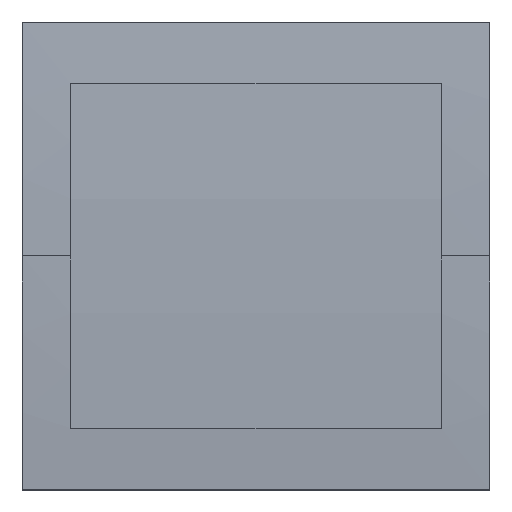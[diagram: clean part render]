
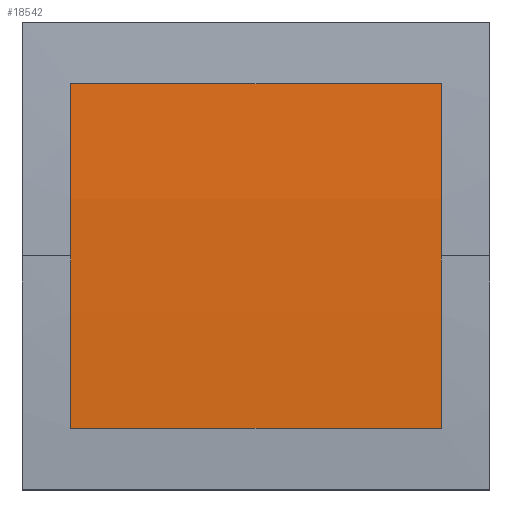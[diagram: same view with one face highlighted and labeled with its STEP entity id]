
A CAD part, top view. The second image highlights one B-rep face of the part: STEP entity #18542.
In plain terms, the highlighted cylindrical face has radius 432.7 mm (diameter 865.4 mm), a partial arc.
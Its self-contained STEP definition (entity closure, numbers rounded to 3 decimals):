
#636 = DIRECTION ( 'NONE',  ( 0., 0., -1. ) ) ;
#1206 = ORIENTED_EDGE ( 'NONE', *, *, #9278, .T. ) ;
#1701 = CARTESIAN_POINT ( 'NONE',  ( -28.5, -26.5, 2.138 ) ) ;
#1829 = CARTESIAN_POINT ( 'NONE',  ( -28.5, 0., -429.75 ) ) ;
#1907 = CARTESIAN_POINT ( 'NONE',  ( -28.5, -26.5, 2.138 ) ) ;
#2424 = CARTESIAN_POINT ( 'NONE',  ( 28.5, 0., -429.75 ) ) ;
#2606 = CIRCLE ( 'NONE', #3835, 432.7 ) ;
#2874 = VECTOR ( 'NONE', #3037, 1000. ) ;
#2949 = EDGE_CURVE ( 'NONE', #24071, #11840, #2606, .T. ) ;
#3037 = DIRECTION ( 'NONE',  ( -1., 0., 0. ) ) ;
#3835 = AXIS2_PLACEMENT_3D ( 'NONE', #18116, #22431, #636 ) ;
#5918 = DIRECTION ( 'NONE',  ( 0., 0., -1. ) ) ;
#5919 = DIRECTION ( 'NONE',  ( 1., 0., 0. ) ) ;
#6214 = VECTOR ( 'NONE', #5919, 1000. ) ;
#6274 = DIRECTION ( 'NONE',  ( 0., 0., -1. ) ) ;
#9278 = EDGE_CURVE ( 'NONE', #24986, #17775, #19820, .T. ) ;
#10136 = EDGE_LOOP ( 'NONE', ( #13277, #12041, #1206, #21912 ) ) ;
#10343 = DIRECTION ( 'NONE',  ( -1., 0., 0. ) ) ;
#11840 = VERTEX_POINT ( 'NONE', #1907 ) ;
#12041 = ORIENTED_EDGE ( 'NONE', *, *, #20073, .T. ) ;
#12477 = AXIS2_PLACEMENT_3D ( 'NONE', #2424, #10343, #6274 ) ;
#12747 = CARTESIAN_POINT ( 'NONE',  ( -28.5, 26.5, 2.138 ) ) ;
#13277 = ORIENTED_EDGE ( 'NONE', *, *, #2949, .T. ) ;
#14901 = CARTESIAN_POINT ( 'NONE',  ( 28.5, 26.5, 2.138 ) ) ;
#15483 = LINE ( 'NONE', #1701, #6214 ) ;
#15522 = AXIS2_PLACEMENT_3D ( 'NONE', #1829, #23372, #5918 ) ;
#15604 = CYLINDRICAL_SURFACE ( 'NONE', #15522, 432.7 ) ;
#16556 = LINE ( 'NONE', #12747, #2874 ) ;
#17735 = EDGE_CURVE ( 'NONE', #17775, #24071, #16556, .T. ) ;
#17775 = VERTEX_POINT ( 'NONE', #14901 ) ;
#18116 = CARTESIAN_POINT ( 'NONE',  ( -28.5, 0., -429.75 ) ) ;
#18203 = CARTESIAN_POINT ( 'NONE',  ( -28.5, 26.5, 2.138 ) ) ;
#18542 = ADVANCED_FACE ( 'NONE', ( #23499 ), #15604, .T. ) ;
#19820 = CIRCLE ( 'NONE', #12477, 432.7 ) ;
#20073 = EDGE_CURVE ( 'NONE', #11840, #24986, #15483, .T. ) ;
#21912 = ORIENTED_EDGE ( 'NONE', *, *, #17735, .T. ) ;
#22431 = DIRECTION ( 'NONE',  ( 1., 0., 0. ) ) ;
#22818 = CARTESIAN_POINT ( 'NONE',  ( 28.5, -26.5, 2.138 ) ) ;
#23372 = DIRECTION ( 'NONE',  ( 1., 0., 0. ) ) ;
#23499 = FACE_OUTER_BOUND ( 'NONE', #10136, .T. ) ;
#24071 = VERTEX_POINT ( 'NONE', #18203 ) ;
#24986 = VERTEX_POINT ( 'NONE', #22818 ) ;
